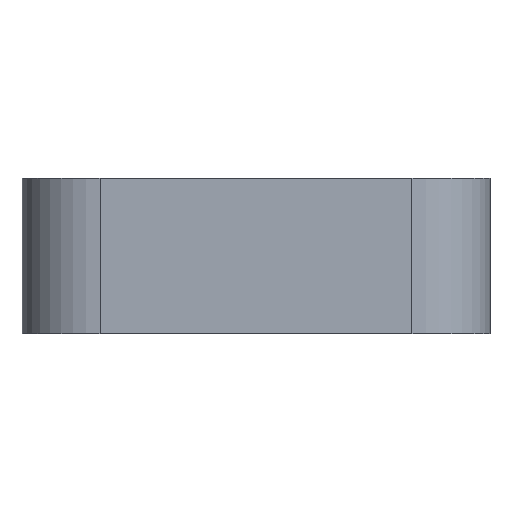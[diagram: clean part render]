
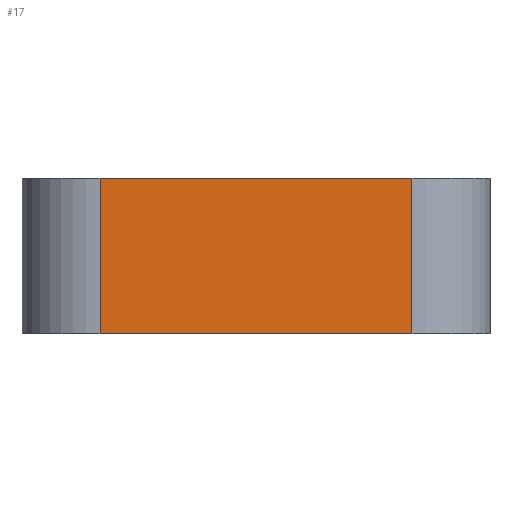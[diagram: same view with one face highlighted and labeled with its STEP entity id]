
A CAD part, left-side view. The second image highlights one B-rep face of the part: STEP entity #17.
In plain terms, the highlighted planar face has unit normal (-1, 0, 0).
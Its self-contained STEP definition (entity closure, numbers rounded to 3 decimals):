
#17 = ADVANCED_FACE('',(#18),#32,.F.);
#18 = FACE_BOUND('',#19,.F.);
#19 = EDGE_LOOP('',(#20,#55,#83,#111));
#20 = ORIENTED_EDGE('',*,*,#21,.F.);
#21 = EDGE_CURVE('',#22,#24,#26,.T.);
#22 = VERTEX_POINT('',#23);
#23 = CARTESIAN_POINT('',(76.,54.,17.4));
#24 = VERTEX_POINT('',#25);
#25 = CARTESIAN_POINT('',(76.,60.,17.4));
#26 = SURFACE_CURVE('',#27,(#31,#43),.PCURVE_S1.);
#27 = LINE('',#28,#29);
#28 = CARTESIAN_POINT('',(76.,52.5,17.4));
#29 = VECTOR('',#30,1.);
#30 = DIRECTION('',(0.,1.,0.));
#31 = PCURVE('',#32,#37);
#32 = PLANE('',#33);
#33 = AXIS2_PLACEMENT_3D('',#34,#35,#36);
#34 = CARTESIAN_POINT('',(76.,52.5,14.4));
#35 = DIRECTION('',(1.,0.,0.));
#36 = DIRECTION('',(0.,0.,1.));
#37 = DEFINITIONAL_REPRESENTATION('',(#38),#42);
#38 = LINE('',#39,#40);
#39 = CARTESIAN_POINT('',(3.,0.));
#40 = VECTOR('',#41,1.);
#41 = DIRECTION('',(0.,-1.));
#42 = ( GEOMETRIC_REPRESENTATION_CONTEXT(2) 
PARAMETRIC_REPRESENTATION_CONTEXT() REPRESENTATION_CONTEXT('2D SPACE',''
  ) );
#43 = PCURVE('',#44,#49);
#44 = PLANE('',#45);
#45 = AXIS2_PLACEMENT_3D('',#46,#47,#48);
#46 = CARTESIAN_POINT('',(76.,52.5,17.4));
#47 = DIRECTION('',(0.,0.,1.));
#48 = DIRECTION('',(1.,0.,0.));
#49 = DEFINITIONAL_REPRESENTATION('',(#50),#54);
#50 = LINE('',#51,#52);
#51 = CARTESIAN_POINT('',(0.,0.));
#52 = VECTOR('',#53,1.);
#53 = DIRECTION('',(0.,1.));
#54 = ( GEOMETRIC_REPRESENTATION_CONTEXT(2) 
PARAMETRIC_REPRESENTATION_CONTEXT() REPRESENTATION_CONTEXT('2D SPACE',''
  ) );
#55 = ORIENTED_EDGE('',*,*,#56,.F.);
#56 = EDGE_CURVE('',#57,#22,#59,.T.);
#57 = VERTEX_POINT('',#58);
#58 = CARTESIAN_POINT('',(76.,54.,14.4));
#59 = SURFACE_CURVE('',#60,(#64,#71),.PCURVE_S1.);
#60 = LINE('',#61,#62);
#61 = CARTESIAN_POINT('',(76.,54.,14.4));
#62 = VECTOR('',#63,1.);
#63 = DIRECTION('',(0.,0.,1.));
#64 = PCURVE('',#32,#65);
#65 = DEFINITIONAL_REPRESENTATION('',(#66),#70);
#66 = LINE('',#67,#68);
#67 = CARTESIAN_POINT('',(0.,-1.5));
#68 = VECTOR('',#69,1.);
#69 = DIRECTION('',(1.,0.));
#70 = ( GEOMETRIC_REPRESENTATION_CONTEXT(2) 
PARAMETRIC_REPRESENTATION_CONTEXT() REPRESENTATION_CONTEXT('2D SPACE',''
  ) );
#71 = PCURVE('',#72,#77);
#72 = CYLINDRICAL_SURFACE('',#73,1.5);
#73 = AXIS2_PLACEMENT_3D('',#74,#75,#76);
#74 = CARTESIAN_POINT('',(77.5,54.,14.4));
#75 = DIRECTION('',(0.,0.,1.));
#76 = DIRECTION('',(-1.,-0.,0.));
#77 = DEFINITIONAL_REPRESENTATION('',(#78),#82);
#78 = LINE('',#79,#80);
#79 = CARTESIAN_POINT('',(0.,0.));
#80 = VECTOR('',#81,1.);
#81 = DIRECTION('',(0.,1.));
#82 = ( GEOMETRIC_REPRESENTATION_CONTEXT(2) 
PARAMETRIC_REPRESENTATION_CONTEXT() REPRESENTATION_CONTEXT('2D SPACE',''
  ) );
#83 = ORIENTED_EDGE('',*,*,#84,.T.);
#84 = EDGE_CURVE('',#57,#85,#87,.T.);
#85 = VERTEX_POINT('',#86);
#86 = CARTESIAN_POINT('',(76.,60.,14.4));
#87 = SURFACE_CURVE('',#88,(#92,#99),.PCURVE_S1.);
#88 = LINE('',#89,#90);
#89 = CARTESIAN_POINT('',(76.,52.5,14.4));
#90 = VECTOR('',#91,1.);
#91 = DIRECTION('',(0.,1.,0.));
#92 = PCURVE('',#32,#93);
#93 = DEFINITIONAL_REPRESENTATION('',(#94),#98);
#94 = LINE('',#95,#96);
#95 = CARTESIAN_POINT('',(0.,0.));
#96 = VECTOR('',#97,1.);
#97 = DIRECTION('',(0.,-1.));
#98 = ( GEOMETRIC_REPRESENTATION_CONTEXT(2) 
PARAMETRIC_REPRESENTATION_CONTEXT() REPRESENTATION_CONTEXT('2D SPACE',''
  ) );
#99 = PCURVE('',#100,#105);
#100 = PLANE('',#101);
#101 = AXIS2_PLACEMENT_3D('',#102,#103,#104);
#102 = CARTESIAN_POINT('',(76.,52.5,14.4));
#103 = DIRECTION('',(0.,0.,1.));
#104 = DIRECTION('',(1.,0.,0.));
#105 = DEFINITIONAL_REPRESENTATION('',(#106),#110);
#106 = LINE('',#107,#108);
#107 = CARTESIAN_POINT('',(0.,0.));
#108 = VECTOR('',#109,1.);
#109 = DIRECTION('',(0.,1.));
#110 = ( GEOMETRIC_REPRESENTATION_CONTEXT(2) 
PARAMETRIC_REPRESENTATION_CONTEXT() REPRESENTATION_CONTEXT('2D SPACE',''
  ) );
#111 = ORIENTED_EDGE('',*,*,#112,.T.);
#112 = EDGE_CURVE('',#85,#24,#113,.T.);
#113 = SURFACE_CURVE('',#114,(#118,#125),.PCURVE_S1.);
#114 = LINE('',#115,#116);
#115 = CARTESIAN_POINT('',(76.,60.,14.4));
#116 = VECTOR('',#117,1.);
#117 = DIRECTION('',(0.,0.,1.));
#118 = PCURVE('',#32,#119);
#119 = DEFINITIONAL_REPRESENTATION('',(#120),#124);
#120 = LINE('',#121,#122);
#121 = CARTESIAN_POINT('',(0.,-7.5));
#122 = VECTOR('',#123,1.);
#123 = DIRECTION('',(1.,0.));
#124 = ( GEOMETRIC_REPRESENTATION_CONTEXT(2) 
PARAMETRIC_REPRESENTATION_CONTEXT() REPRESENTATION_CONTEXT('2D SPACE',''
  ) );
#125 = PCURVE('',#126,#131);
#126 = CYLINDRICAL_SURFACE('',#127,1.5);
#127 = AXIS2_PLACEMENT_3D('',#128,#129,#130);
#128 = CARTESIAN_POINT('',(77.5,60.,14.4));
#129 = DIRECTION('',(0.,0.,1.));
#130 = DIRECTION('',(-1.,-0.,0.));
#131 = DEFINITIONAL_REPRESENTATION('',(#132),#136);
#132 = LINE('',#133,#134);
#133 = CARTESIAN_POINT('',(-0.,0.));
#134 = VECTOR('',#135,1.);
#135 = DIRECTION('',(-0.,1.));
#136 = ( GEOMETRIC_REPRESENTATION_CONTEXT(2) 
PARAMETRIC_REPRESENTATION_CONTEXT() REPRESENTATION_CONTEXT('2D SPACE',''
  ) );
